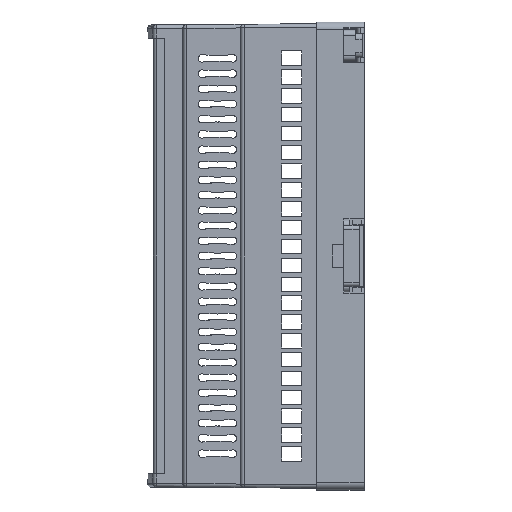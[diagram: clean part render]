
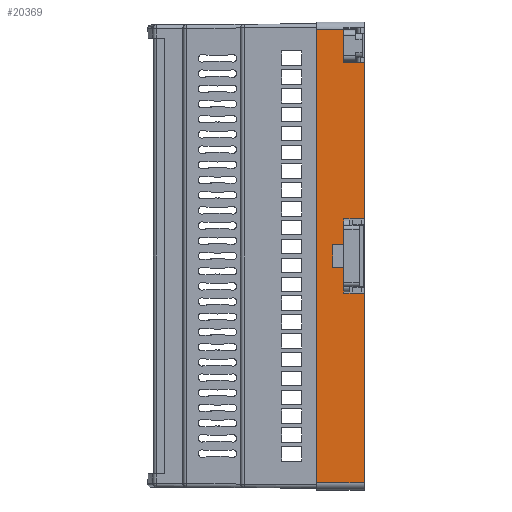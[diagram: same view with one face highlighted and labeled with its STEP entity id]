
A CAD part, left-side view. The second image highlights one B-rep face of the part: STEP entity #20369.
In plain terms, the highlighted planar face has unit normal (-1, 0, 0).
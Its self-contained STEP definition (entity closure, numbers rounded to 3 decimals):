
#218 = EDGE_CURVE ( 'NONE', #2122, #15038, #4206, .T. ) ;
#299 = ORIENTED_EDGE ( 'NONE', *, *, #21618, .F. ) ;
#405 = VERTEX_POINT ( 'NONE', #27715 ) ;
#491 = LINE ( 'NONE', #1321, #31263 ) ;
#955 = CARTESIAN_POINT ( 'NONE',  ( -45.3, 5.5, 9.995 ) ) ;
#1319 = CARTESIAN_POINT ( 'NONE',  ( -45.3, 0., -61.125 ) ) ;
#1321 = CARTESIAN_POINT ( 'NONE',  ( -45.3, 12.92, -61.125 ) ) ;
#1508 = LINE ( 'NONE', #22123, #37279 ) ;
#2122 = VERTEX_POINT ( 'NONE', #18760 ) ;
#2277 = EDGE_CURVE ( 'NONE', #32160, #2614, #19524, .T. ) ;
#2423 = VERTEX_POINT ( 'NONE', #17426 ) ;
#2439 = ORIENTED_EDGE ( 'NONE', *, *, #13902, .F. ) ;
#2516 = CARTESIAN_POINT ( 'NONE',  ( -45.3, 12.92, -61.125 ) ) ;
#2541 = DIRECTION ( 'NONE',  ( 0., -1., 0. ) ) ;
#2614 = VERTEX_POINT ( 'NONE', #29865 ) ;
#2664 = EDGE_CURVE ( 'NONE', #28350, #32160, #491, .T. ) ;
#2977 = ORIENTED_EDGE ( 'NONE', *, *, #32517, .T. ) ;
#3397 = ORIENTED_EDGE ( 'NONE', *, *, #10161, .F. ) ;
#3535 = CARTESIAN_POINT ( 'NONE',  ( -45.3, 5.5, 52.195 ) ) ;
#4206 = LINE ( 'NONE', #7234, #11919 ) ;
#5491 = AXIS2_PLACEMENT_3D ( 'NONE', #29289, #9209, #29416 ) ;
#5501 = LINE ( 'NONE', #12085, #11436 ) ;
#5512 = ORIENTED_EDGE ( 'NONE', *, *, #22246, .T. ) ;
#6007 = ORIENTED_EDGE ( 'NONE', *, *, #25411, .F. ) ;
#6387 = DIRECTION ( 'NONE',  ( 0., -1., 0. ) ) ;
#6680 = LINE ( 'NONE', #18375, #22139 ) ;
#6708 = VERTEX_POINT ( 'NONE', #11068 ) ;
#6716 = FACE_OUTER_BOUND ( 'NONE', #25550, .T. ) ;
#7234 = CARTESIAN_POINT ( 'NONE',  ( -45.3, 0., -61.125 ) ) ;
#7905 = EDGE_CURVE ( 'NONE', #21978, #13194, #1508, .T. ) ;
#8774 = ORIENTED_EDGE ( 'NONE', *, *, #29157, .T. ) ;
#9209 = DIRECTION ( 'NONE',  ( 1., 0., 0. ) ) ;
#10161 = EDGE_CURVE ( 'NONE', #2614, #2423, #28911, .T. ) ;
#10209 = VECTOR ( 'NONE', #32084, 1000. ) ;
#10302 = LINE ( 'NONE', #955, #30644 ) ;
#10507 = ORIENTED_EDGE ( 'NONE', *, *, #218, .T. ) ;
#10558 = EDGE_CURVE ( 'NONE', #21978, #11418, #6680, .T. ) ;
#10727 = CARTESIAN_POINT ( 'NONE',  ( -45.3, 5.5, 3. ) ) ;
#11068 = CARTESIAN_POINT ( 'NONE',  ( -45.3, 0., -61.125 ) ) ;
#11123 = CARTESIAN_POINT ( 'NONE',  ( -45.3, 8.5, -3. ) ) ;
#11418 = VERTEX_POINT ( 'NONE', #14091 ) ;
#11436 = VECTOR ( 'NONE', #14971, 1000. ) ;
#11720 = LINE ( 'NONE', #16053, #33874 ) ;
#11919 = VECTOR ( 'NONE', #27467, 1000. ) ;
#12085 = CARTESIAN_POINT ( 'NONE',  ( -45.3, 5.5, -139.502 ) ) ;
#12310 = VECTOR ( 'NONE', #2541, 1000. ) ;
#13082 = VECTOR ( 'NONE', #6387, 1000. ) ;
#13194 = VERTEX_POINT ( 'NONE', #33512 ) ;
#13213 = DIRECTION ( 'NONE',  ( 0., -1., 0. ) ) ;
#13370 = CARTESIAN_POINT ( 'NONE',  ( -45.3, 5.5, 9.995 ) ) ;
#13902 = EDGE_CURVE ( 'NONE', #19812, #405, #17929, .T. ) ;
#14002 = LINE ( 'NONE', #16028, #27526 ) ;
#14079 = VECTOR ( 'NONE', #13213, 1000. ) ;
#14091 = CARTESIAN_POINT ( 'NONE',  ( -45.3, 5.5, -3. ) ) ;
#14881 = CARTESIAN_POINT ( 'NONE',  ( -45.3, 5.5, -9.995 ) ) ;
#14971 = DIRECTION ( 'NONE',  ( 0., 0., -1. ) ) ;
#15038 = VERTEX_POINT ( 'NONE', #35207 ) ;
#15447 = DIRECTION ( 'NONE',  ( 0., -1., 0. ) ) ;
#15810 = CARTESIAN_POINT ( 'NONE',  ( -45.3, 12.92, 61.125 ) ) ;
#16028 = CARTESIAN_POINT ( 'NONE',  ( -45.3, 5.5, -139.502 ) ) ;
#16053 = CARTESIAN_POINT ( 'NONE',  ( -45.3, 8.5, 3. ) ) ;
#17426 = CARTESIAN_POINT ( 'NONE',  ( -45.3, 5.5, 52.195 ) ) ;
#17929 = LINE ( 'NONE', #14881, #10209 ) ;
#18375 = CARTESIAN_POINT ( 'NONE',  ( -45.3, 8.5, -3. ) ) ;
#18558 = DIRECTION ( 'NONE',  ( 0., -1., 0. ) ) ;
#18651 = CARTESIAN_POINT ( 'NONE',  ( -45.3, 5.5, -139.502 ) ) ;
#18760 = CARTESIAN_POINT ( 'NONE',  ( -45.3, 0., 9.995 ) ) ;
#19012 = DIRECTION ( 'NONE',  ( 0., -1., 0. ) ) ;
#19079 = VERTEX_POINT ( 'NONE', #10727 ) ;
#19232 = DIRECTION ( 'NONE',  ( 0., 0., 1. ) ) ;
#19524 = LINE ( 'NONE', #15810, #12310 ) ;
#19812 = VERTEX_POINT ( 'NONE', #32529 ) ;
#20369 = ADVANCED_FACE ( 'NONE', ( #6716 ), #26484, .F. ) ;
#20456 = ORIENTED_EDGE ( 'NONE', *, *, #20574, .F. ) ;
#20574 = EDGE_CURVE ( 'NONE', #11418, #19812, #14002, .T. ) ;
#21552 = DIRECTION ( 'NONE',  ( 0., 0., 1. ) ) ;
#21618 = EDGE_CURVE ( 'NONE', #2423, #15038, #37075, .T. ) ;
#21858 = DIRECTION ( 'NONE',  ( 0., 0., -1. ) ) ;
#21978 = VERTEX_POINT ( 'NONE', #11123 ) ;
#22123 = CARTESIAN_POINT ( 'NONE',  ( -45.3, 8.5, -3. ) ) ;
#22139 = VECTOR ( 'NONE', #15447, 1000. ) ;
#22173 = VECTOR ( 'NONE', #35945, 1000. ) ;
#22246 = EDGE_CURVE ( 'NONE', #27226, #2122, #10302, .T. ) ;
#22721 = CARTESIAN_POINT ( 'NONE',  ( -45.3, 12.92, 61.125 ) ) ;
#24356 = ORIENTED_EDGE ( 'NONE', *, *, #2277, .F. ) ;
#25167 = ORIENTED_EDGE ( 'NONE', *, *, #2664, .F. ) ;
#25411 = EDGE_CURVE ( 'NONE', #27226, #19079, #5501, .T. ) ;
#25550 = EDGE_LOOP ( 'NONE', ( #36506, #25630, #35622, #6007, #5512, #10507, #299, #3397, #24356, #25167, #2977, #8774, #2439, #20456 ) ) ;
#25630 = ORIENTED_EDGE ( 'NONE', *, *, #7905, .T. ) ;
#26484 = PLANE ( 'NONE',  #5491 ) ;
#27226 = VERTEX_POINT ( 'NONE', #13370 ) ;
#27314 = DIRECTION ( 'NONE',  ( 0., 0., 1. ) ) ;
#27467 = DIRECTION ( 'NONE',  ( 0., 0., 1. ) ) ;
#27526 = VECTOR ( 'NONE', #21858, 1000. ) ;
#27715 = CARTESIAN_POINT ( 'NONE',  ( -45.3, 0., -9.995 ) ) ;
#28350 = VERTEX_POINT ( 'NONE', #2516 ) ;
#28438 = VECTOR ( 'NONE', #27314, 1000. ) ;
#28911 = LINE ( 'NONE', #18651, #22173 ) ;
#29157 = EDGE_CURVE ( 'NONE', #6708, #405, #36190, .T. ) ;
#29289 = CARTESIAN_POINT ( 'NONE',  ( -45.3, 12.92, -61.125 ) ) ;
#29416 = DIRECTION ( 'NONE',  ( 0., 0., -1. ) ) ;
#29796 = EDGE_CURVE ( 'NONE', #13194, #19079, #11720, .T. ) ;
#29865 = CARTESIAN_POINT ( 'NONE',  ( -45.3, 5.5, 61.125 ) ) ;
#30644 = VECTOR ( 'NONE', #18558, 1000. ) ;
#31263 = VECTOR ( 'NONE', #21552, 1000. ) ;
#32084 = DIRECTION ( 'NONE',  ( 0., -1., 0. ) ) ;
#32160 = VERTEX_POINT ( 'NONE', #22721 ) ;
#32517 = EDGE_CURVE ( 'NONE', #28350, #6708, #37182, .T. ) ;
#32529 = CARTESIAN_POINT ( 'NONE',  ( -45.3, 5.5, -9.995 ) ) ;
#33512 = CARTESIAN_POINT ( 'NONE',  ( -45.3, 8.5, 3. ) ) ;
#33874 = VECTOR ( 'NONE', #19012, 1000. ) ;
#35207 = CARTESIAN_POINT ( 'NONE',  ( -45.3, 0., 52.195 ) ) ;
#35622 = ORIENTED_EDGE ( 'NONE', *, *, #29796, .T. ) ;
#35945 = DIRECTION ( 'NONE',  ( 0., 0., -1. ) ) ;
#36190 = LINE ( 'NONE', #1319, #28438 ) ;
#36351 = CARTESIAN_POINT ( 'NONE',  ( -45.3, 12.92, -61.125 ) ) ;
#36506 = ORIENTED_EDGE ( 'NONE', *, *, #10558, .F. ) ;
#37075 = LINE ( 'NONE', #3535, #13082 ) ;
#37182 = LINE ( 'NONE', #36351, #14079 ) ;
#37279 = VECTOR ( 'NONE', #19232, 1000. ) ;
